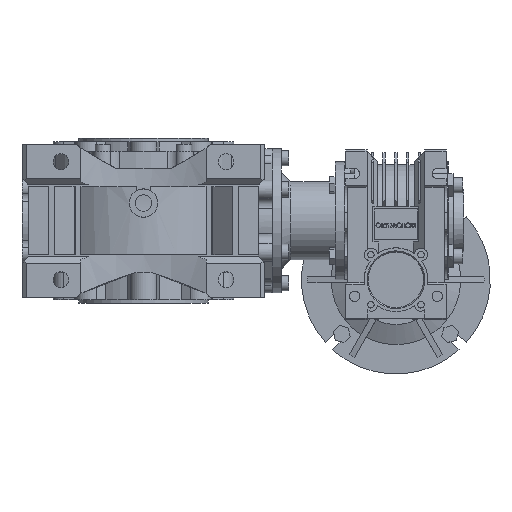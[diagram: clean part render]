
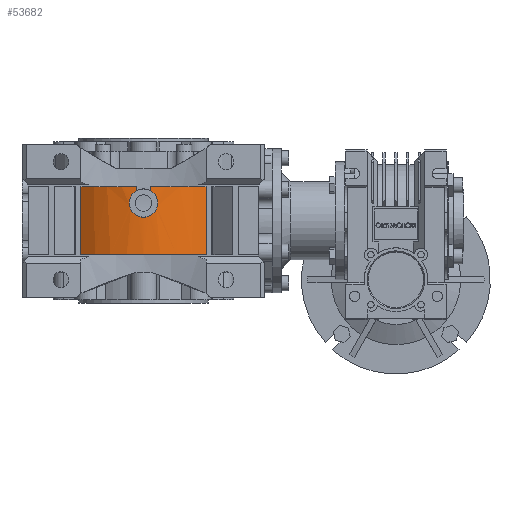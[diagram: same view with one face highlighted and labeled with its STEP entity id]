
A CAD part, front view. The second image highlights one B-rep face of the part: STEP entity #53682.
In plain terms, the highlighted cylindrical face has radius 86 mm (diameter 172 mm), a partial arc.
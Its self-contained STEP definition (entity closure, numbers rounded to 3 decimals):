
#630=B_SPLINE_CURVE_WITH_KNOTS('',3,(#75419,#75420,#75421,#75422,#75423,
#75424,#75425,#75426,#75427,#75428,#75429,#75430,#75431,#75432,#75433,#75434),
 .UNSPECIFIED.,.F.,.F.,(4,1,1,1,1,1,1,1,1,1,1,1,1,4),(0.044,
0.052,0.056,0.059,0.063,
0.067,0.071,0.075,0.083,
0.087,0.091,0.095,0.099,
0.106),.UNSPECIFIED.);
#908=CYLINDRICAL_SURFACE('',#56557,86.);
#2157=LINE('',#74412,#5647);
#2159=LINE('',#74415,#5649);
#2494=LINE('',#75417,#5984);
#2495=LINE('',#75436,#5985);
#5647=VECTOR('',#61565,1000.);
#5649=VECTOR('',#61569,1000.);
#5984=VECTOR('',#62512,1000.);
#5985=VECTOR('',#62513,1000.);
#11090=ORIENTED_EDGE('',*,*,#21707,.T.);
#11091=ORIENTED_EDGE('',*,*,#21708,.T.);
#11092=ORIENTED_EDGE('',*,*,#21709,.T.);
#11093=ORIENTED_EDGE('',*,*,#21198,.T.);
#11094=ORIENTED_EDGE('',*,*,#21211,.T.);
#11095=ORIENTED_EDGE('',*,*,#21178,.F.);
#11096=ORIENTED_EDGE('',*,*,#21209,.T.);
#11097=ORIENTED_EDGE('',*,*,#20430,.T.);
#20430=EDGE_CURVE('',#26140,#26138,#29807,.T.);
#21178=EDGE_CURVE('',#26696,#26697,#29984,.T.);
#21198=EDGE_CURVE('',#26710,#26713,#29992,.T.);
#21209=EDGE_CURVE('',#26696,#26140,#2157,.T.);
#21211=EDGE_CURVE('',#26713,#26697,#2159,.F.);
#21707=EDGE_CURVE('',#26138,#27042,#2494,.F.);
#21708=EDGE_CURVE('',#27042,#27043,#630,.T.);
#21709=EDGE_CURVE('',#27043,#26710,#2495,.T.);
#26138=VERTEX_POINT('',#72544);
#26140=VERTEX_POINT('',#72547);
#26696=VERTEX_POINT('',#74350);
#26697=VERTEX_POINT('',#74352);
#26710=VERTEX_POINT('',#74385);
#26713=VERTEX_POINT('',#74391);
#27042=VERTEX_POINT('',#75418);
#27043=VERTEX_POINT('',#75435);
#29807=CIRCLE('',#55832,86.);
#29984=CIRCLE('',#56231,86.);
#29992=CIRCLE('',#56243,86.);
#31743=EDGE_LOOP('',(#11090,#11091,#11092,#11093,#11094,#11095,#11096,#11097));
#34445=FACE_BOUND('',#31743,.T.);
#53682=ADVANCED_FACE('',(#34445),#908,.T.);
#55832=AXIS2_PLACEMENT_3D('',#72546,#60287,#60288);
#56231=AXIS2_PLACEMENT_3D('',#74351,#61505,#61506);
#56243=AXIS2_PLACEMENT_3D('',#74392,#61541,#61542);
#56557=AXIS2_PLACEMENT_3D('',#75416,#62510,#62511);
#60287=DIRECTION('',(0.,0.,1.));
#60288=DIRECTION('',(1.,0.,0.));
#61505=DIRECTION('',(0.,0.,1.));
#61506=DIRECTION('',(1.,0.,0.));
#61541=DIRECTION('',(0.,0.,1.));
#61542=DIRECTION('',(1.,0.,0.));
#61565=DIRECTION('',(0.,0.,-1.));
#61569=DIRECTION('',(0.,0.,-1.));
#62510=DIRECTION('',(0.,0.,-1.));
#62511=DIRECTION('',(-1.,0.,0.));
#62512=DIRECTION('',(0.,0.,-1.));
#62513=DIRECTION('',(0.,0.,-1.));
#72544=CARTESIAN_POINT('',(-6.,-85.79,-29.));
#72546=CARTESIAN_POINT('',(0.,0.,-29.));
#72547=CARTESIAN_POINT('',(-53.,-67.727,-29.));
#74350=CARTESIAN_POINT('',(-53.,-67.727,29.));
#74351=CARTESIAN_POINT('',(0.,0.,29.));
#74352=CARTESIAN_POINT('',(53.,-67.727,29.));
#74385=CARTESIAN_POINT('',(6.,-85.79,-29.));
#74391=CARTESIAN_POINT('',(53.,-67.727,-29.));
#74392=CARTESIAN_POINT('',(0.,0.,-29.));
#74412=CARTESIAN_POINT('',(-53.,-67.727,29.));
#74415=CARTESIAN_POINT('',(53.,-67.727,29.));
#75416=CARTESIAN_POINT('',(0.,0.,29.));
#75417=CARTESIAN_POINT('',(-6.,-85.79,29.));
#75418=CARTESIAN_POINT('',(-6.,-85.79,-25.392));
#75419=CARTESIAN_POINT('',(-6.,-85.79,-25.392));
#75420=CARTESIAN_POINT('',(-8.276,-85.631,-24.078));
#75421=CARTESIAN_POINT('',(-10.981,-85.304,-20.981));
#75422=CARTESIAN_POINT('',(-12.19,-85.131,-15.806));
#75423=CARTESIAN_POINT('',(-11.801,-85.188,-11.84));
#75424=CARTESIAN_POINT('',(-10.159,-85.407,-8.216));
#75425=CARTESIAN_POINT('',(-7.442,-85.697,-5.314));
#75426=CARTESIAN_POINT('',(-3.945,-85.937,-3.437));
#75427=CARTESIAN_POINT('',(1.337,-86.065,-2.558));
#75428=CARTESIAN_POINT('',(6.541,-85.796,-4.343));
#75429=CARTESIAN_POINT('',(10.159,-85.407,-8.217));
#75430=CARTESIAN_POINT('',(11.8,-85.188,-11.839));
#75431=CARTESIAN_POINT('',(12.19,-85.131,-15.804));
#75432=CARTESIAN_POINT('',(10.984,-85.304,-20.979));
#75433=CARTESIAN_POINT('',(8.266,-85.632,-24.084));
#75434=CARTESIAN_POINT('',(6.,-85.79,-25.392));
#75435=CARTESIAN_POINT('',(6.,-85.79,-25.392));
#75436=CARTESIAN_POINT('',(6.,-85.79,29.));
